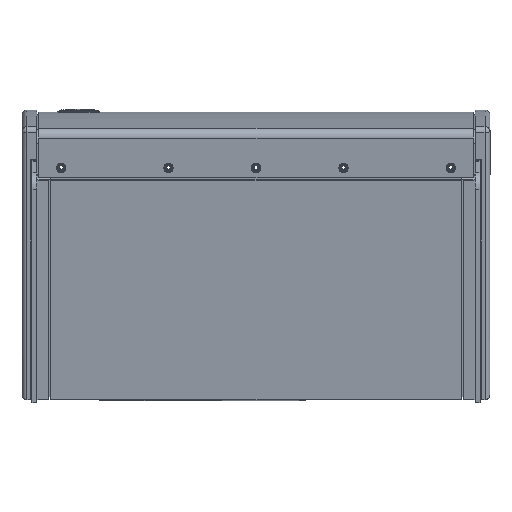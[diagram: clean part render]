
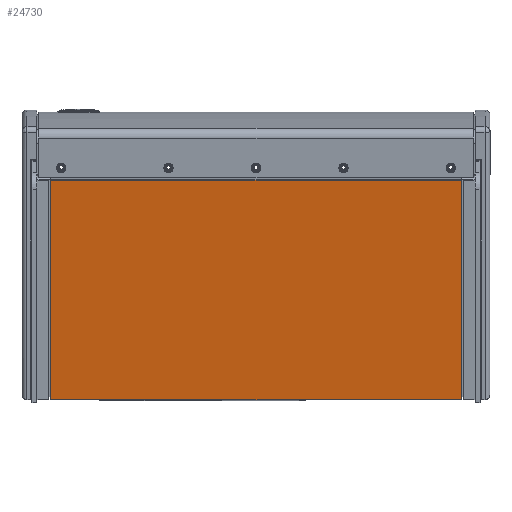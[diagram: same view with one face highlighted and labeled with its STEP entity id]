
A CAD part, front view. The second image highlights one B-rep face of the part: STEP entity #24730.
In plain terms, the highlighted planar face has unit normal (0, -0.985, -0.174) as drawn and (0, 0, -1) by its records, which use the part's own axes.
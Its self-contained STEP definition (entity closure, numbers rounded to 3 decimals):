
#2904 = CARTESIAN_POINT ( 'NONE',  ( -155.727, -261.874, -18.288 ) ) ;
#3499 = EDGE_LOOP ( 'NONE', ( #7968, #23000, #15779, #5298 ) ) ;
#3511 = EDGE_CURVE ( 'NONE', #5346, #22097, #23376, .T. ) ;
#4815 = VECTOR ( 'NONE', #16923, 1000. ) ;
#5099 = CARTESIAN_POINT ( 'NONE',  ( 128.118, 270.256, -18.288 ) ) ;
#5183 = DIRECTION ( 'NONE',  ( 1., 0., 0. ) ) ;
#5281 = CARTESIAN_POINT ( 'NONE',  ( 128.118, -261.874, -18.288 ) ) ;
#5298 = ORIENTED_EDGE ( 'NONE', *, *, #3511, .F. ) ;
#5346 = VERTEX_POINT ( 'NONE', #11302 ) ;
#6159 = AXIS2_PLACEMENT_3D ( 'NONE', #23611, #7454, #5183 ) ;
#7454 = DIRECTION ( 'NONE',  ( 0., 0., 1. ) ) ;
#7719 = FACE_OUTER_BOUND ( 'NONE', #3499, .T. ) ;
#7968 = ORIENTED_EDGE ( 'NONE', *, *, #15592, .T. ) ;
#8534 = VERTEX_POINT ( 'NONE', #5281 ) ;
#11278 = DIRECTION ( 'NONE',  ( 0., -1., 0. ) ) ;
#11302 = CARTESIAN_POINT ( 'NONE',  ( -155.727, 261.874, -18.288 ) ) ;
#12807 = EDGE_CURVE ( 'NONE', #22097, #8534, #23093, .T. ) ;
#14145 = DIRECTION ( 'NONE',  ( 1., 0., 0. ) ) ;
#15592 = EDGE_CURVE ( 'NONE', #5346, #25523, #19948, .T. ) ;
#15779 = ORIENTED_EDGE ( 'NONE', *, *, #12807, .F. ) ;
#16443 = VECTOR ( 'NONE', #14145, 1000. ) ;
#16923 = DIRECTION ( 'NONE',  ( 0., -1., 0. ) ) ;
#18406 = EDGE_CURVE ( 'NONE', #25523, #8534, #18948, .T. ) ;
#18948 = LINE ( 'NONE', #5099, #22367 ) ;
#19176 = CARTESIAN_POINT ( 'NONE',  ( 128.118, 261.874, -18.288 ) ) ;
#19948 = LINE ( 'NONE', #26265, #16443 ) ;
#20381 = CARTESIAN_POINT ( 'NONE',  ( -155.727, -261.874, -18.288 ) ) ;
#21219 = CARTESIAN_POINT ( 'NONE',  ( -155.727, 270.256, -18.288 ) ) ;
#22097 = VERTEX_POINT ( 'NONE', #20381 ) ;
#22367 = VECTOR ( 'NONE', #11278, 1000. ) ;
#23000 = ORIENTED_EDGE ( 'NONE', *, *, #18406, .T. ) ;
#23093 = LINE ( 'NONE', #2904, #25682 ) ;
#23376 = LINE ( 'NONE', #21219, #4815 ) ;
#23611 = CARTESIAN_POINT ( 'NONE',  ( 128.118, 270.256, -18.288 ) ) ;
#23743 = PLANE ( 'NONE',  #6159 ) ;
#24730 = ADVANCED_FACE ( 'NONE', ( #7719 ), #23743, .F. ) ;
#25252 = DIRECTION ( 'NONE',  ( 1., 0., 0. ) ) ;
#25523 = VERTEX_POINT ( 'NONE', #19176 ) ;
#25682 = VECTOR ( 'NONE', #25252, 1000. ) ;
#26265 = CARTESIAN_POINT ( 'NONE',  ( -155.727, 261.874, -18.288 ) ) ;
